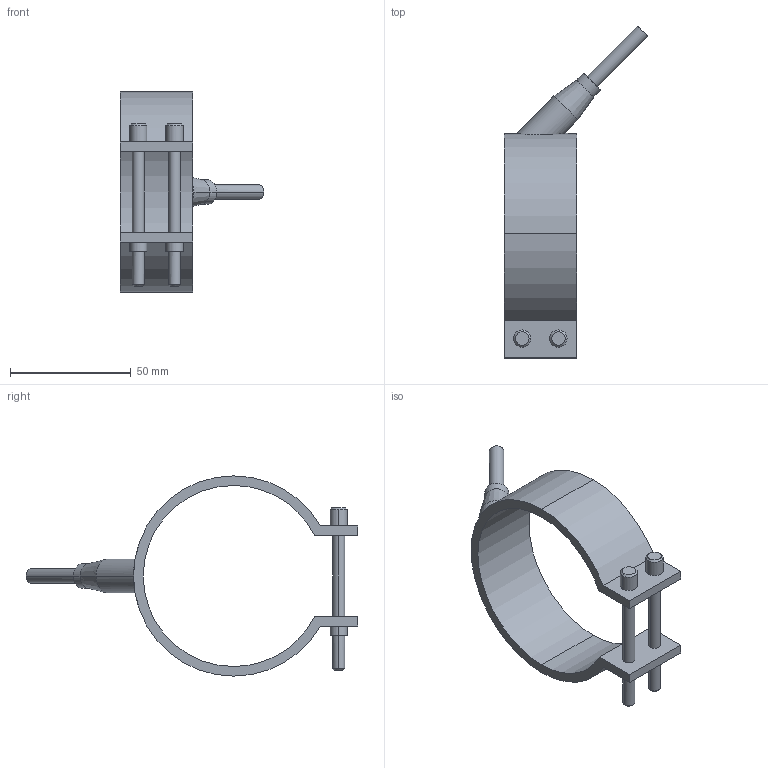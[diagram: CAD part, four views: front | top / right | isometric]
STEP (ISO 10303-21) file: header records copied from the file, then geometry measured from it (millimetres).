
FILE_DESCRIPTION(('CATIA V5 STEP Exchange'),'2;1');
FILE_NAME('C:\Users\Utente\Desktop\IO LAVORO\3D X SITO CF\X SITO\PLASTICA\RF1\29075030.stp','2021-03-29T18:16:18+00:00',('none'),('none'),'CATIA Version 5 Release 20 GA (IN-10)','CATIA V5 STEP AP203','none');
FILE_SCHEMA(('CONFIG_CONTROL_DESIGN'));
Length unit declared in the file: millimetre
Products named in the file (1): 29075030
Bounding box: 59.55 x 137.55 x 83 mm (x, y, z)
Volume: 36676.5 mm3; surface area: 20299.8 mm2
Topology: 1 solids, 1 shells, 54 faces, 125 edges, 81 vertices
Faces by surface type: cylinder 28, plane 16, cone 10
Entity records: 1732 total; most frequent: CARTESIAN_POINT 486, ORIENTED_EDGE 250, DIRECTION 215, EDGE_CURVE 125, AXIS2_PLACEMENT_3D 108, VERTEX_POINT 81, EDGE_LOOP 66, VECTOR 56
